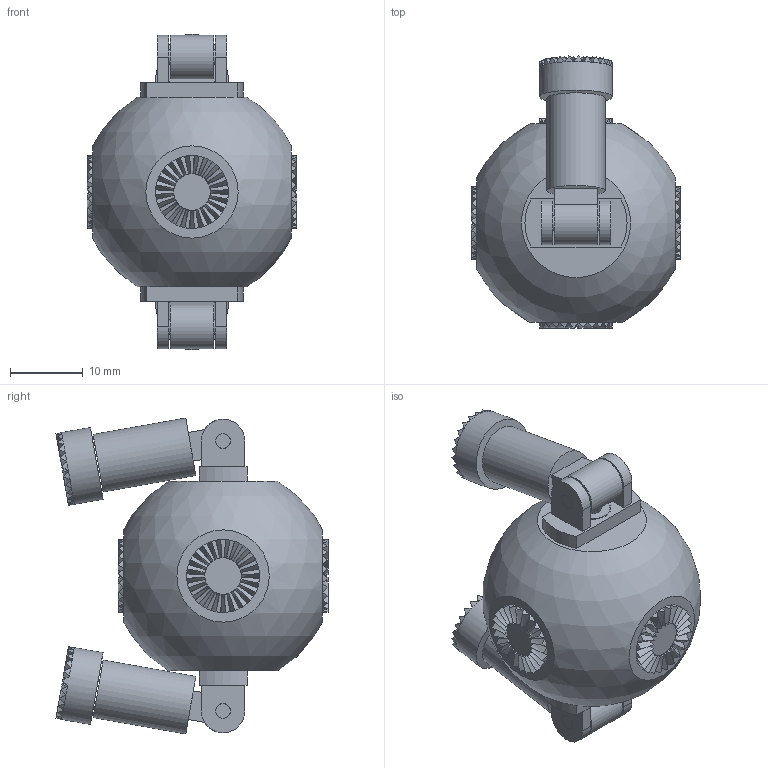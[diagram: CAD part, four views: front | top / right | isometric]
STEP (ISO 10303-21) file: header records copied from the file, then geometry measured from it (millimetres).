
FILE_DESCRIPTION(('Open CASCADE Model'),'2;1');
FILE_NAME('Open CASCADE Shape Model','2026-10-23T00:30:12',('Author'),( 'Open CASCADE'),'Open CASCADE STEP processor 7.9','Open CASCADE 7.9' ,'Unknown');
FILE_SCHEMA(('AUTOMOTIVE_DESIGN { 1 0 10303 214 1 1 1 1 }'));
Length unit declared in the file: millimetre
Products named in the file (10): bot_U_grip; bot0_body; bot0_turret_top; bot0_pin_top; bot0_arm_top; bot0_tip_top; bot0_turret_bottom; bot0_pin_bottom; bot0_arm_bottom; bot0_tip_bottom
Assembly tree (9 placements, depth 2):
  bot_U_grip
    bot0_body
    bot0_turret_top
    bot0_pin_top
    bot0_arm_top
    bot0_tip_top
    bot0_turret_bottom
    bot0_pin_bottom
    bot0_arm_bottom
    bot0_tip_bottom
Bounding box: 28.8 x 37.33 x 43.32 mm (x, y, z)
Volume: 6207.9 mm3; surface area: 9536 mm2
Topology: 9 solids, 9 shells, 880 faces, 2132 edges, 1298 vertices
Faces by surface type: cylinder 472, bspline 288, plane 118, sphere 2
Full cylindrical faces by diameter (mm): 2 x2, 2.04 x6, 2.6 x2, 3.8 x4, 5 x4, 5.2 x2, 6 x2, 8 x2, 10 x6, 14.967 x2
Entity records: 66767 total; most frequent: CARTESIAN_POINT 30769, DIRECTION 4307, ORIENTED_EDGE 4264, PCURVE 4264, DEFINITIONAL_REPRESENTATION 4264, B_SPLINE_CURVE_WITH_KNOTS 3834, EDGE_CURVE 2132, SURFACE_CURVE 2096
